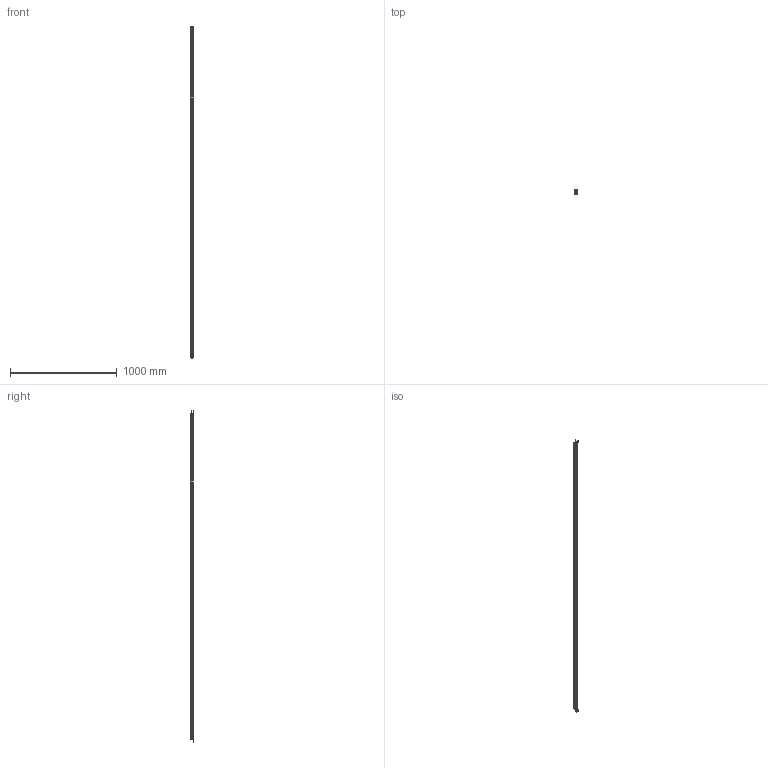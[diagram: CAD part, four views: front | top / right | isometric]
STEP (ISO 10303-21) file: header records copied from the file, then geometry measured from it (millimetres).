
FILE_DESCRIPTION (( 'STEP AP203' ), '1' );
FILE_NAME ('KT40-763000.STEP', '2022-08-26T03:02:12', ( '微软用户' ), ( '微软中国' ), 'SwSTEP 2.0', 'SolidWorks 2020', '' );
FILE_SCHEMA (( 'CONFIG_CONTROL_DESIGN' ));
Length unit declared in the file: millimetre
Products named in the file (4): 光同步29X29 出线塑料盖1; KT40-763000; 光同步29X29 出线塑料盖2; 29x29倰第
Assembly tree (3 placements, depth 2):
  KT40-763000
    29x29倰第
    光同步29X29 出线塑料盖1
    光同步29X29 出线塑料盖2
Bounding box: 30 x 34 x 3105 mm (x, y, z)
Volume: 2268165.1 mm3; surface area: 430295.8 mm2
Topology: 4 solids, 12 shells, 661 faces, 1760 edges, 1138 vertices
Faces by surface type: cylinder 299, plane 269, bspline 54, cone 39
Entity records: 30323 total; most frequent: CARTESIAN_POINT 13492, ORIENTED_EDGE 3510, DIRECTION 3352, EDGE_CURVE 1758, AXIS2_PLACEMENT_3D 1220, VERTEX_POINT 1138, LINE 912, VECTOR 912
